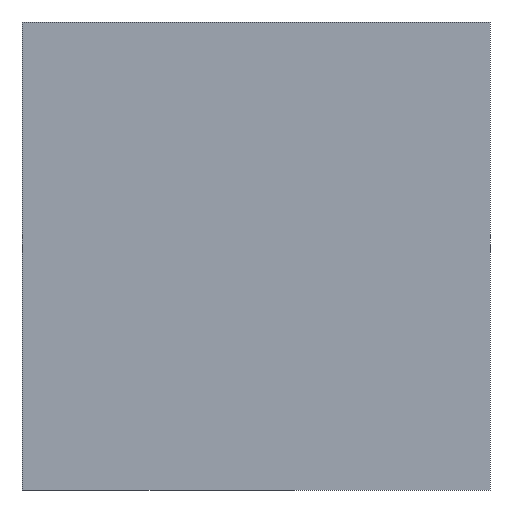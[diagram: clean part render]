
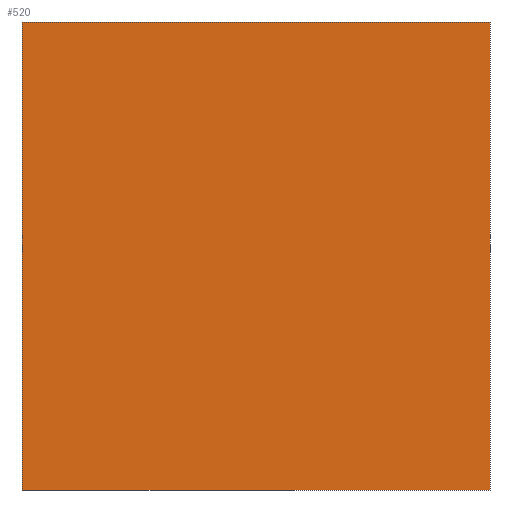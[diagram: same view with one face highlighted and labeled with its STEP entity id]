
A CAD part, left-side view. The second image highlights one B-rep face of the part: STEP entity #520.
In plain terms, the highlighted planar face has unit normal (-1, 0, 0).
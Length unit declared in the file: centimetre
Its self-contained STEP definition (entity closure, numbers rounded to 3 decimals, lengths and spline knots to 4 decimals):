
#3 = CARTESIAN_POINT ( 'NONE',  ( 0., 0., 1000. ) ) ;
#17 = CARTESIAN_POINT ( 'NONE',  ( 0., 1000., 1000. ) ) ;
#36 = VECTOR ( 'NONE', #391, 100. ) ;
#39 = CARTESIAN_POINT ( 'NONE',  ( 0., 1000., 0. ) ) ;
#92 = VECTOR ( 'NONE', #204, 100. ) ;
#106 = LINE ( 'NONE', #17, #92 ) ;
#112 = CARTESIAN_POINT ( 'NONE',  ( 0., 0., 1000. ) ) ;
#139 = VERTEX_POINT ( 'NONE', #300 ) ;
#149 = VECTOR ( 'NONE', #488, 100. ) ;
#165 = LINE ( 'NONE', #112, #149 ) ;
#192 = EDGE_LOOP ( 'NONE', ( #335, #337, #320, #518 ) ) ;
#199 = EDGE_CURVE ( 'NONE', #334, #545, #165, .T. ) ;
#204 = DIRECTION ( 'NONE',  ( 0., 0., -1. ) ) ;
#232 = EDGE_CURVE ( 'NONE', #139, #239, #106, .T. ) ;
#239 = VERTEX_POINT ( 'NONE', #39 ) ;
#250 = CARTESIAN_POINT ( 'NONE',  ( 0., 1000., 1000. ) ) ;
#257 = CARTESIAN_POINT ( 'NONE',  ( 0., 0., 0. ) ) ;
#261 = CARTESIAN_POINT ( 'NONE',  ( 0., 1000., 0. ) ) ;
#270 = VECTOR ( 'NONE', #360, 100. ) ;
#296 = PLANE ( 'NONE',  #490 ) ;
#300 = CARTESIAN_POINT ( 'NONE',  ( 0., 1000., 1000. ) ) ;
#320 = ORIENTED_EDGE ( 'NONE', *, *, #450, .F. ) ;
#334 = VERTEX_POINT ( 'NONE', #3 ) ;
#335 = ORIENTED_EDGE ( 'NONE', *, *, #593, .T. ) ;
#337 = ORIENTED_EDGE ( 'NONE', *, *, #199, .F. ) ;
#343 = CARTESIAN_POINT ( 'NONE',  ( 0., 1000., 1000. ) ) ;
#360 = DIRECTION ( 'NONE',  ( 0., -1., 0. ) ) ;
#391 = DIRECTION ( 'NONE',  ( 0., -1., 0. ) ) ;
#427 = DIRECTION ( 'NONE',  ( 1., 0., 0. ) ) ;
#450 = EDGE_CURVE ( 'NONE', #139, #334, #486, .T. ) ;
#473 = DIRECTION ( 'NONE',  ( 0., 0., -1. ) ) ;
#477 = FACE_OUTER_BOUND ( 'NONE', #192, .T. ) ;
#486 = LINE ( 'NONE', #343, #36 ) ;
#488 = DIRECTION ( 'NONE',  ( 0., 0., -1. ) ) ;
#490 = AXIS2_PLACEMENT_3D ( 'NONE', #250, #427, #473 ) ;
#518 = ORIENTED_EDGE ( 'NONE', *, *, #232, .T. ) ;
#520 = ADVANCED_FACE ( 'NONE', ( #477 ), #296, .F. ) ;
#545 = VERTEX_POINT ( 'NONE', #257 ) ;
#582 = LINE ( 'NONE', #261, #270 ) ;
#593 = EDGE_CURVE ( 'NONE', #239, #545, #582, .T. ) ;
